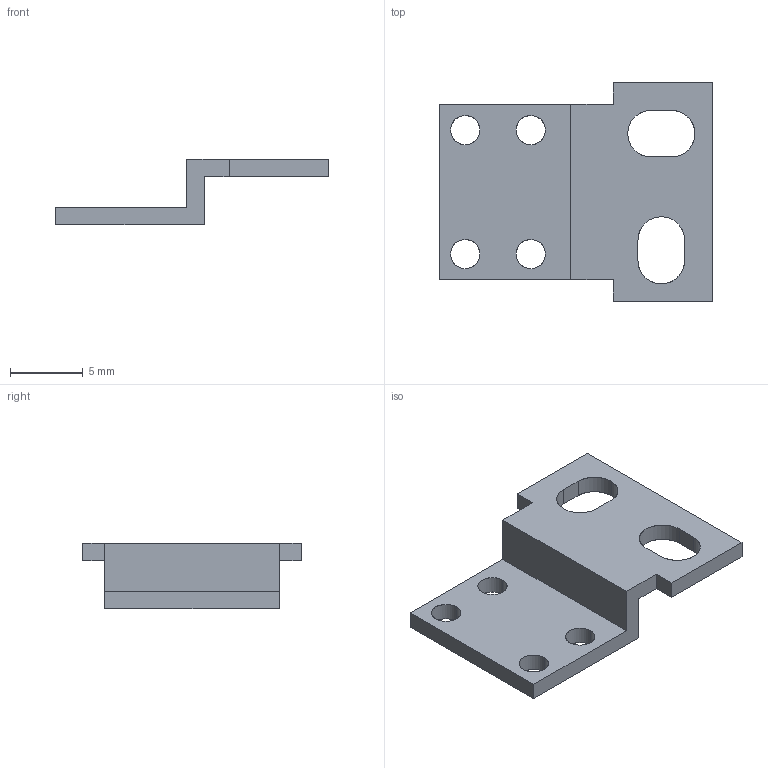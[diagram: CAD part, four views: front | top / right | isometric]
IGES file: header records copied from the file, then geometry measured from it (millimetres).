
Start section: SolidWorks IGES file using analytic representation for surfaces
Global section: file name: C:\catalog\ms-exz-2.IGS; native system: SolidWorks 2010; preprocessor: SolidWorks 2010; author: hi1633; date: 150421.101218; units: millimetre
Bounding box: 18.7 x 15 x 4.5 mm (x, y, z)
Surface area: 643.4 mm2 (no closed solid volume)
Topology: 0 solids, 0 shells, 31 faces, 532 edges, 532 vertices
Faces by surface type: bspline 18, revolution 13
